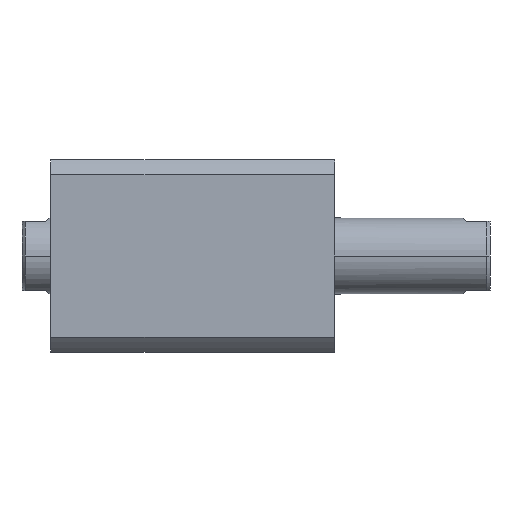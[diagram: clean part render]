
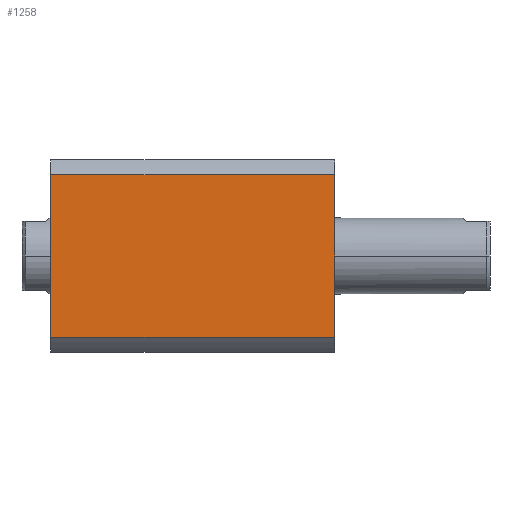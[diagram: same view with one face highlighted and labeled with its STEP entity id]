
A CAD part, left-side view. The second image highlights one B-rep face of the part: STEP entity #1258.
In plain terms, the highlighted planar face has unit normal (-1, 0, 0).
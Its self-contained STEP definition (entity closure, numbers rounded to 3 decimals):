
#62 = EDGE_CURVE ( 'NONE', #15193, #2167, #9026, .T. ) ;
#1258 = ADVANCED_FACE ( 'NONE', ( #9741 ), #11564, .F. ) ;
#1433 = CARTESIAN_POINT ( 'NONE',  ( -57., 57., 0. ) ) ;
#2167 = VERTEX_POINT ( 'NONE', #3582 ) ;
#2322 = CARTESIAN_POINT ( 'NONE',  ( -57., 57., 168. ) ) ;
#2580 = ORIENTED_EDGE ( 'NONE', *, *, #4686, .F. ) ;
#3080 = CARTESIAN_POINT ( 'NONE',  ( -57., 57., 168. ) ) ;
#3261 = VECTOR ( 'NONE', #12092, 1000. ) ;
#3582 = CARTESIAN_POINT ( 'NONE',  ( -57., -47.971, 168. ) ) ;
#3613 = CARTESIAN_POINT ( 'NONE',  ( -57., 47.971, -132. ) ) ;
#3999 = EDGE_CURVE ( 'NONE', #11172, #15193, #6474, .T. ) ;
#4638 = AXIS2_PLACEMENT_3D ( 'NONE', #3080, #7908, #15189 ) ;
#4686 = EDGE_CURVE ( 'NONE', #2167, #4971, #6662, .T. ) ;
#4971 = VERTEX_POINT ( 'NONE', #15685 ) ;
#6208 = DIRECTION ( 'NONE',  ( 0., 0., -1. ) ) ;
#6474 = LINE ( 'NONE', #3613, #3261 ) ;
#6662 = LINE ( 'NONE', #13482, #15217 ) ;
#7192 = DIRECTION ( 'NONE',  ( 0., -1., 0. ) ) ;
#7908 = DIRECTION ( 'NONE',  ( 1., 0., 0. ) ) ;
#8138 = CARTESIAN_POINT ( 'NONE',  ( -57., 47.971, 0. ) ) ;
#9026 = LINE ( 'NONE', #2322, #12229 ) ;
#9141 = LINE ( 'NONE', #1433, #15591 ) ;
#9741 = FACE_OUTER_BOUND ( 'NONE', #12515, .T. ) ;
#9905 = DIRECTION ( 'NONE',  ( 0., -1., 0. ) ) ;
#10754 = ORIENTED_EDGE ( 'NONE', *, *, #3999, .F. ) ;
#11172 = VERTEX_POINT ( 'NONE', #8138 ) ;
#11564 = PLANE ( 'NONE',  #4638 ) ;
#12092 = DIRECTION ( 'NONE',  ( 0., 0., 1. ) ) ;
#12229 = VECTOR ( 'NONE', #7192, 1000. ) ;
#12515 = EDGE_LOOP ( 'NONE', ( #10754, #13003, #2580, #14024 ) ) ;
#13003 = ORIENTED_EDGE ( 'NONE', *, *, #13433, .T. ) ;
#13433 = EDGE_CURVE ( 'NONE', #11172, #4971, #9141, .T. ) ;
#13482 = CARTESIAN_POINT ( 'NONE',  ( -57., -47.971, -132. ) ) ;
#14024 = ORIENTED_EDGE ( 'NONE', *, *, #62, .F. ) ;
#14087 = CARTESIAN_POINT ( 'NONE',  ( -57., 47.971, 168. ) ) ;
#15189 = DIRECTION ( 'NONE',  ( 0., 1., 0. ) ) ;
#15193 = VERTEX_POINT ( 'NONE', #14087 ) ;
#15217 = VECTOR ( 'NONE', #6208, 1000. ) ;
#15591 = VECTOR ( 'NONE', #9905, 1000. ) ;
#15685 = CARTESIAN_POINT ( 'NONE',  ( -57., -47.971, 0. ) ) ;
